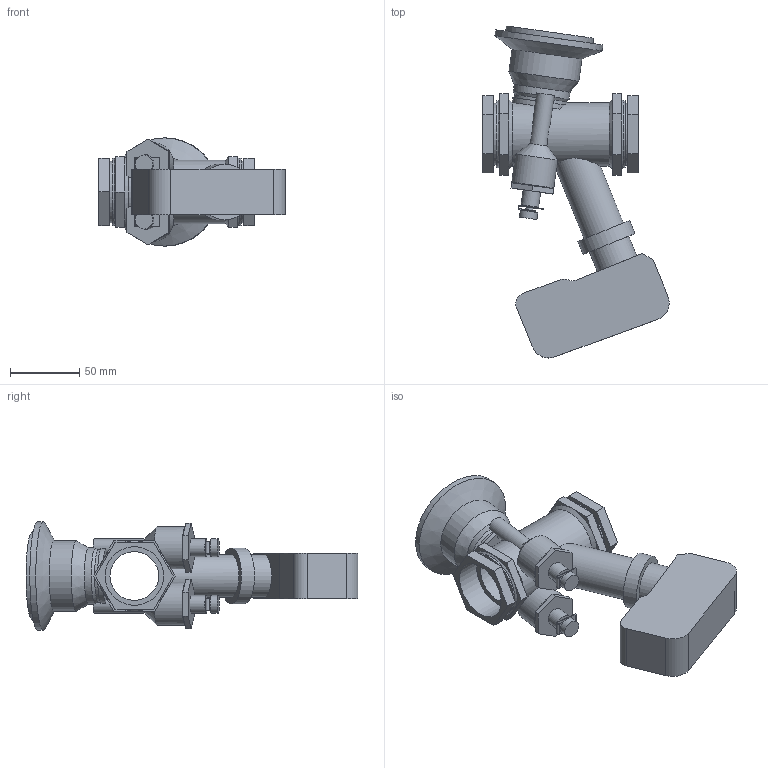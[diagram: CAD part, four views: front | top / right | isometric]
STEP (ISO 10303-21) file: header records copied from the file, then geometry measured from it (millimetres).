
FILE_DESCRIPTION(/* description */ ('VIC BALANCING AND CONTROL VALVE SERIES 7CP (FPT)-TA SLIDER 160 FAIL-SAFE','CAx-IF Rec.Pracs.---Representation and Presentation of Product Manufacturing Information (PMI)---4.0---2014-10-13'),/* implementation_level */ '2;1');
FILE_NAME(/* name */ 'C:\Users\Vjadhav\AppData\Roaming\Autodesk\ApplicationPlugins\Victaulic.Temp\A633\Victaulic_IPS_Valve Balancing Pressure Independent_TA Series 7CP (FPT)_Slider 160 Fail-Safe_1.25 (32).stp',/* time_stamp */ '2021-09-14T20:04:31+06:00',/* author */ ('Vjadhav'),/* organization */ ('Victaulic'),/* preprocessor_version */ 'ST-DEVELOPER v17.2',/* originating_system */ 'Autodesk Inventor 2019',/* authorisation */ '');
FILE_SCHEMA (('AP242_MANAGED_MODEL_BASED_3D_ENGINEERING_MIM_LF { 1 0 10303 442 1 1 4 }'));
Length unit declared in the file: inch
Products named in the file (2): 7CP_Slider 160 Fail-Safe-01.25; 7CP-01.25
Assembly tree (1 placements, depth 2):
  7CP_Slider 160 Fail-Safe-01.25
    7CP-01.25
Bounding box: 134.16 x 239.01 x 77.98 mm (x, y, z)
Volume: 437385.5 mm3; surface area: 91636.4 mm2
Topology: 1 solids, 1 shells, 175 faces, 447 edges, 298 vertices
Faces by surface type: plane 118, cylinder 47, cone 10
Full cylindrical faces by diameter (mm): 5.08 x6, 12.7 x8, 30.48 x4, 35.052 x2, 40.232 x1, 40.64 x1, 42.164 x3, 44.45 x2, 45.72 x1, 48.26 x2, 50.8 x1, 63.5 x1, 77.978 x1
Entity records: 5899 total; most frequent: CARTESIAN_POINT 1195, DIRECTION 960, ORIENTED_EDGE 894, EDGE_CURVE 447, AXIS2_PLACEMENT_3D 355, VERTEX_POINT 298, LINE 250, VECTOR 250
